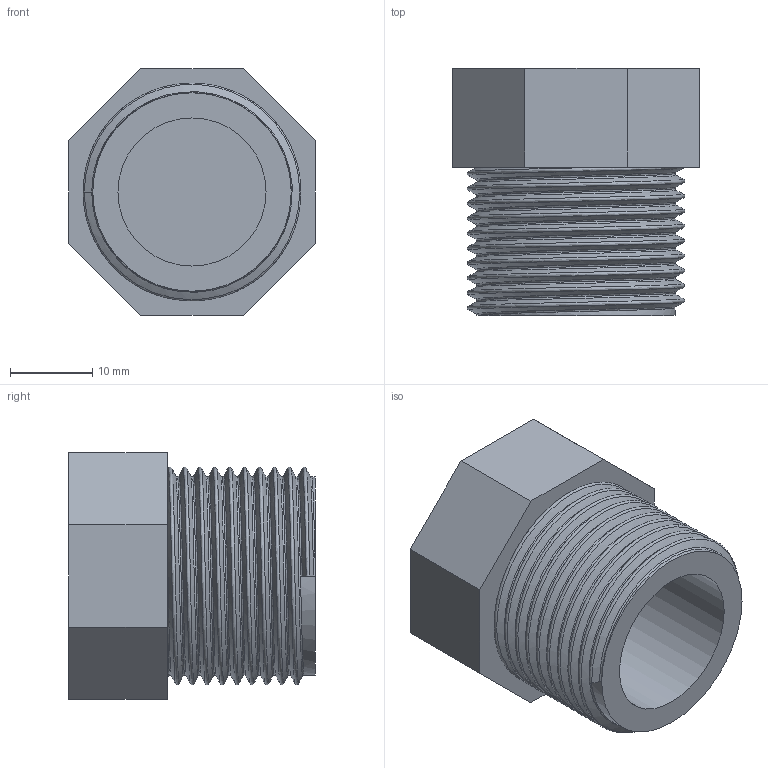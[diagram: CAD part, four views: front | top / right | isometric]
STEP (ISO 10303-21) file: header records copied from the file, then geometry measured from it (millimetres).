
FILE_DESCRIPTION(/* description */ ('PVC tappo filettato BSP maschio'),/* implementation_level */ '2;1');
FILE_NAME(/* name */ 'C:\Users\POLYPIPE\Desktop\DATASET INVENTOR\LIBRERIA EFFAST\RACCORDI 3DxWEB\RER\3D_RERTAE\3D_RERTAE025C.stp',/* time_stamp */ '2018-01-19T17:17:49+01:00',/* author */ ('POLYPIPE'),/* organization */ ('Polypipe Italia s.r.l.'),/* preprocessor_version */ 'ST-DEVELOPER v16.1',/* originating_system */ 'Autodesk Inventor 2016',/* authorisation */ '');
FILE_SCHEMA (('CONFIG_CONTROL_DESIGN'));
Length unit declared in the file: millimetre
Products named in the file (1): 3D_RERTAE
Bounding box: 30 x 30 x 30 mm (x, y, z)
Volume: 13370 mm3; surface area: 6049.1 mm2
Topology: 1 solids, 1 shells, 20 faces, 45 edges, 29 vertices
Faces by surface type: plane 13, bspline 5, cylinder 2
Full cylindrical faces by diameter (mm): 18 x1, 24.117 x1
Entity records: 4376 total; most frequent: CARTESIAN_POINT 3937, ORIENTED_EDGE 88, DIRECTION 71, EDGE_CURVE 44, VERTEX_POINT 29, LINE 27, VECTOR 27, EDGE_LOOP 23
